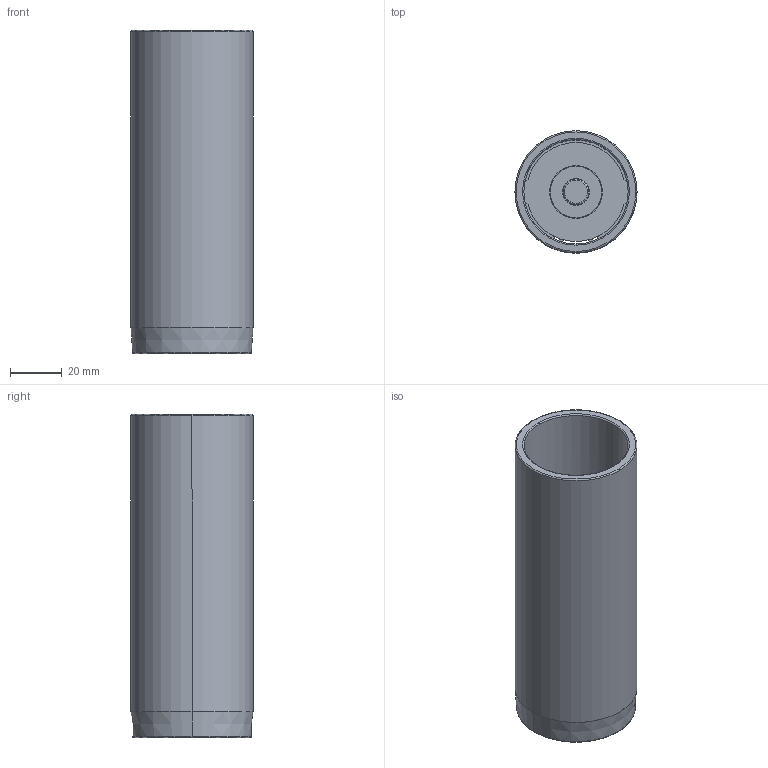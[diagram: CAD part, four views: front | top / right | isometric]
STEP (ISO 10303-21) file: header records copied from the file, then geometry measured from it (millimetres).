
FILE_DESCRIPTION((''),'2;1');
FILE_NAME('C12_040_125.stp','2009-01-28T11:35:18',(''),(''),'Mechanical Desktop 2009','Mechanical Desktop 2009',', , ');
FILE_SCHEMA(('CONFIG_CONTROL_DESIGN'));
Length unit declared in the file: millimetre
Products named in the file (2): Product; blmdl1
Assembly tree (1 placements, depth 2):
  Product
    blmdl1
Bounding box: 47.25 x 47.25 x 125 mm (x, y, z)
Volume: 64066.1 mm3; surface area: 41926.7 mm2
Topology: 5 solids, 5 shells, 79 faces, 200 edges, 134 vertices
Faces by surface type: cylinder 34, plane 29, torus 10, cone 6
Entity records: 2585 total; most frequent: DIRECTION 480, CARTESIAN_POINT 435, ORIENTED_EDGE 400, AXIS2_PLACEMENT_3D 203, EDGE_CURVE 200, VERTEX_POINT 134, CIRCLE 122, EDGE_LOOP 92
